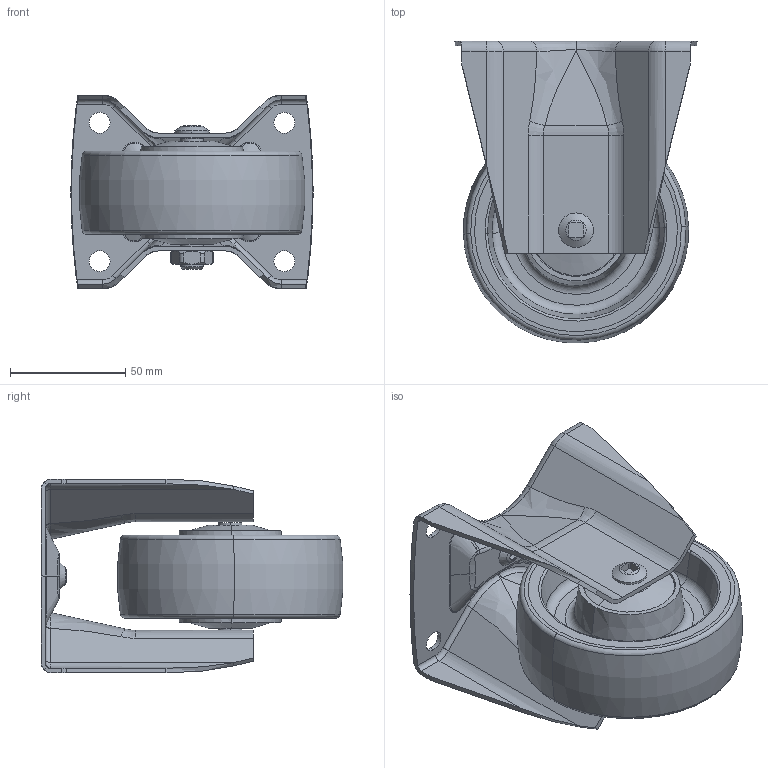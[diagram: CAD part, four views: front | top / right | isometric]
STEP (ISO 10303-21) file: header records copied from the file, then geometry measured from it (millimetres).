
FILE_DESCRIPTION (( 'STEP AP203' ), '1' );
FILE_NAME ('400646_STEP.STEP', '2011-08-29T10:27:01', ( '' ), ( '' ), 'SwSTEP 2.0', 'SolidWorks 2011', '' );
FILE_SCHEMA (( 'CONFIG_CONTROL_DESIGN' ));
Length unit declared in the file: millimetre
Products named in the file (1): 400646_STEP
Bounding box: 105 x 130.82 x 84 mm (x, y, z)
Surface area: 90058.8 mm2 (no closed solid volume)
Topology: 0 solids, 9 shells, 296 faces, 810 edges, 520 vertices
Faces by surface type: bspline 94, cylinder 76, plane 72, torus 28, cone 26
Entity records: 28089 total; most frequent: CARTESIAN_POINT 21342, ORIENTED_EDGE 1521, DIRECTION 1182, EDGE_CURVE 810, VERTEX_POINT 520, AXIS2_PLACEMENT_3D 487, EDGE_LOOP 326, ADVANCED_FACE 296
